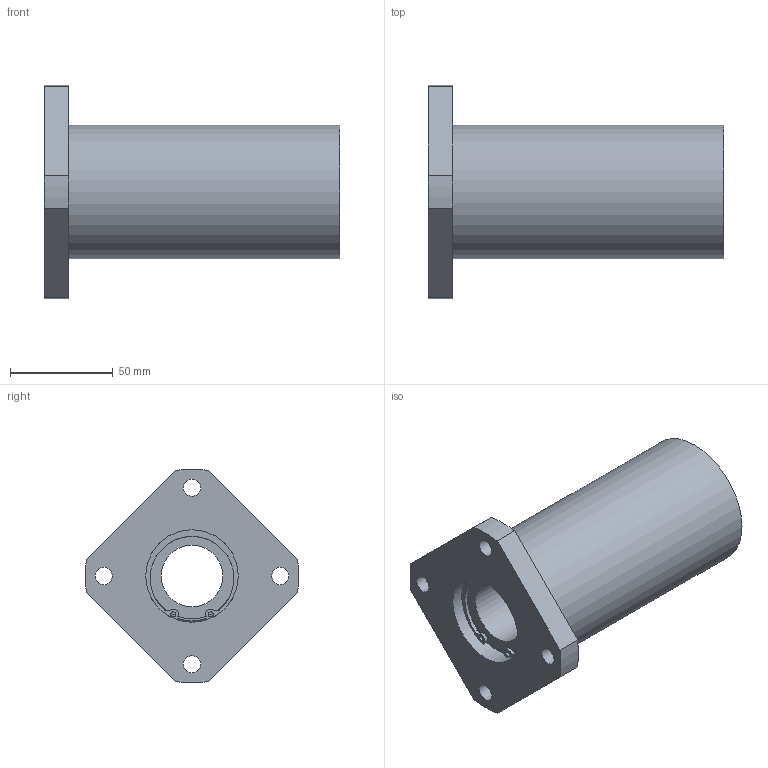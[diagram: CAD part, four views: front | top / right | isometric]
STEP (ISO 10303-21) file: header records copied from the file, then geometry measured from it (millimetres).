
FILE_DESCRIPTION((''),'2;1');
FILE_NAME('D:\製品 (図面)\カタログ用3D\リニアベアリング関連(改)\STEP形式\LFWK\LFWK30.stp','2010-01-22T15:59:27',('Tsuchiya'),(''),'Autodesk Inventor 10','Autodesk Inventor 10','');
FILE_SCHEMA(('AUTOMOTIVE_DESIGN { 1 0 10303 214 1 1 1 1 }'));
Length unit declared in the file: millimetre
Products named in the file (1): LFWK30
Bounding box: 144 x 103.86 x 103.86 mm (x, y, z)
Volume: 400884 mm3; surface area: 64770.6 mm2
Topology: 1 solids, 6 shells, 86 faces, 228 edges, 141 vertices
Faces by surface type: bspline 31, cylinder 28, plane 25, torus 2
Full cylindrical faces by diameter (mm): 2.5 x2, 8.376 x4, 30 x1, 41.7 x2, 43 x2, 45 x7, 65 x1
Entity records: 2722 total; most frequent: CARTESIAN_POINT 722, DIRECTION 430, ORIENTED_EDGE 362, AXIS2_PLACEMENT_3D 193, EDGE_CURVE 181, EDGE_LOOP 144, CIRCLE 137, VERTEX_POINT 125
